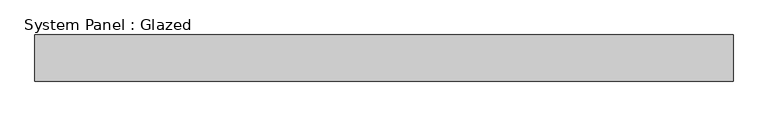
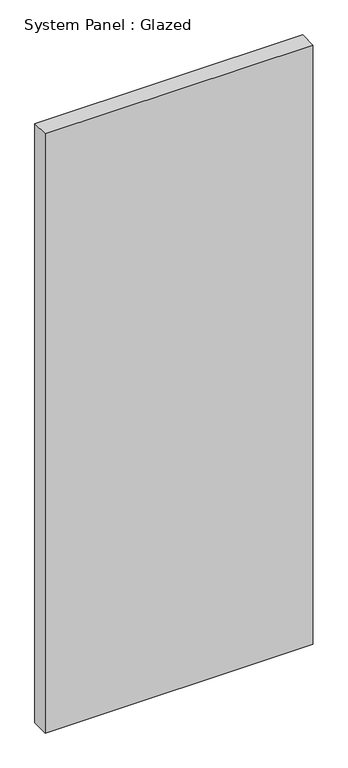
"""IFC4 building model written with IfcOpenShell, lengths in millimetres: plate geometry, System Panel : Glazed."""

import ifcopenshell
import ifcopenshell.guid

model = None  # the IFC model being written
_history = None  # IfcOwnerHistory: only IFC2X3 demands one
_inside = {}  # id of a spatial element -> (the spatial element, [elements in it])
_under = {}  # id of a project, library or spatial element -> (it, [spatial elements below it])
_declared = {}  # id of a project -> (the project, [libraries it declares])
_typed = {}  # id of a type object -> (the type object, [elements of that type])
_made_of = {}  # id of a material, layer set ... -> (it, [elements and type objects made of it])


def new_model(schema):
    """Start an empty IFC model of exactly this schema.

    Asked for "IFC4X3", IfcOpenShell would pick the latest addendum, in which some entities
    have other attributes; the version numbers below select the first issue.
    IFC2X3 requires an IfcOwnerHistory on every rooted entity: one is made here for all.
    """
    global model, _history
    if schema == "IFC4X3":
        model = ifcopenshell.file(schema_version=(4, 3, 0, 0))
    else:
        model = ifcopenshell.file(schema=schema)
    _inside.clear()
    _under.clear()
    _declared.clear()
    _typed.clear()
    _made_of.clear()
    _history = None
    if model.schema == "IFC2X3":
        org = make("IfcOrganization", Name="unknown")
        user = make(
            "IfcPersonAndOrganization",
            ThePerson=make("IfcPerson", FamilyName="unknown"),
            TheOrganization=org,
        )
        app = make(
            "IfcApplication",
            ApplicationDeveloper=org,
            Version="unknown",
            ApplicationFullName="unknown",
            ApplicationIdentifier="unknown",
        )
        _history = make(
            "IfcOwnerHistory",
            OwningUser=user,
            OwningApplication=app,
            ChangeAction="ADDED",
            CreationDate=0,
        )
    return model


def make(cls, **values):
    """One entity of the class cls with the attributes given. An attribute that is None is left unset."""
    return model.create_entity(
        cls, **{name: value for name, value in values.items() if value is not None}
    )


def rooted(cls, **values):
    """An entity with a GlobalId (a new one), such as an element, a storey or a relation."""
    return make(cls, GlobalId=ifcopenshell.guid.new(), OwnerHistory=_history, **values)


def si_unit(unit_type, name, prefix=None):
    """IfcSIUnit, for example si_unit("LENGTHUNIT", "METRE", prefix="MILLI")."""
    return make("IfcSIUnit", UnitType=unit_type, Prefix=prefix, Name=name)


def assignment(units):
    """IfcUnitAssignment: the units of a project."""
    return None if units is None else make("IfcUnitAssignment", Units=units)


def point(xyz):
    """IfcCartesianPoint."""
    return None if xyz is None else make("IfcCartesianPoint", Coordinates=xyz)


def direction(xyz):
    """IfcDirection."""
    return None if xyz is None else make("IfcDirection", DirectionRatios=xyz)


def frame(location, z_axis=None, x_axis=None):
    """IfcAxis2Placement3D, a coordinate frame: its origin and axes. An axis left out is left unset."""
    return make(
        "IfcAxis2Placement3D",
        Location=point(location),
        Axis=direction(z_axis),
        RefDirection=direction(x_axis),
    )


def origin():
    """The frame at (0, 0, 0) with its axes left unset."""
    return frame((0.0, 0.0, 0.0))


def origin_with_axes():
    """The frame at (0, 0, 0) with the z axis (0, 0, 1) and the x axis (1, 0, 0) written out."""
    return frame((0.0, 0.0, 0.0), z_axis=(0.0, 0.0, 1.0), x_axis=(1.0, 0.0, 0.0))


def place(relative_to, where):
    """IfcLocalPlacement: puts the frame where relative to a parent placement (None: the world)."""
    return make(
        "IfcLocalPlacement", PlacementRelTo=relative_to, RelativePlacement=where
    )


def context(
    kind, dimensions, precision=None, world=None, true_north=None, identifier=None
):
    """IfcGeometricRepresentationContext, for example the 3D "Model" context."""
    return make(
        "IfcGeometricRepresentationContext",
        ContextIdentifier=identifier,
        ContextType=kind,
        CoordinateSpaceDimension=dimensions,
        Precision=precision,
        WorldCoordinateSystem=world,
        TrueNorth=true_north,
    )


def project(units=None, contexts=None):
    """IfcProject with its units and contexts."""
    return rooted(
        "IfcProject",
        Name="project",
        RepresentationContexts=contexts,
        UnitsInContext=assignment(units),
    )


def spatial(cls, under=None, at=None, **own):
    """A site, building, storey or space (cls), placed at a placement, below another one or the project."""
    s = rooted(cls, ObjectPlacement=at, **own)
    if under is not None:
        _under.setdefault(under.id(), (under, []))[1].append(s)
    return s


def polyline(points):
    """IfcPolyline through the points."""
    return make("IfcPolyline", Points=[point(p) for p in points])


def outline(outer, holes=None, kind="AREA"):
    """IfcArbitraryClosedProfileDef: a profile drawn as a closed curve; with holes, ...WithVoids."""
    if holes is None:
        return make("IfcArbitraryClosedProfileDef", ProfileType=kind, OuterCurve=outer)
    return make(
        "IfcArbitraryProfileDefWithVoids",
        ProfileType=kind,
        OuterCurve=outer,
        InnerCurves=holes,
    )


def extrude(swept, where, along, depth):
    """IfcExtrudedAreaSolid: the profile swept, set in the frame where, extruded along a direction by depth."""
    return make(
        "IfcExtrudedAreaSolid",
        SweptArea=swept,
        Position=where,
        ExtrudedDirection=direction(along),
        Depth=depth,
    )


def shape(context_of_items, identifier, shape_type, items):
    """IfcShapeRepresentation: the items that make up one representation, for example the "Body"."""
    return make(
        "IfcShapeRepresentation",
        ContextOfItems=context_of_items,
        RepresentationIdentifier=identifier,
        RepresentationType=shape_type,
        Items=items,
    )


def source(mapping_origin, context_of_items, identifier, shape_type, items):
    """IfcRepresentationMap: a shape defined once, which mapped items show again and again."""
    return make(
        "IfcRepresentationMap",
        MappingOrigin=mapping_origin,
        MappedRepresentation=shape(context_of_items, identifier, shape_type, items),
    )


def transform(
    local_origin,
    x_axis=None,
    y_axis=None,
    z_axis=None,
    scale=None,
    scale2=None,
    scale3=None,
    uniform=True,
):
    """IfcCartesianTransformationOperator3D, or its non-uniform kind. x_axis, y_axis, z_axis: its Axis1, 2, 3."""
    if uniform:
        return make(
            "IfcCartesianTransformationOperator3D",
            Axis1=direction(x_axis),
            Axis2=direction(y_axis),
            LocalOrigin=point(local_origin),
            Scale=scale,
            Axis3=direction(z_axis),
        )
    return make(
        "IfcCartesianTransformationOperator3DnonUniform",
        Axis1=direction(x_axis),
        Axis2=direction(y_axis),
        LocalOrigin=point(local_origin),
        Scale=scale,
        Axis3=direction(z_axis),
        Scale2=scale2,
        Scale3=scale3,
    )


def mapped(mapping_source, mapping_target):
    """IfcMappedItem: shows the shape of a source again, moved by a transform."""
    return make(
        "IfcMappedItem", MappingSource=mapping_source, MappingTarget=mapping_target
    )


def made_of(thing, what):
    """Note that an element or type object is made of a material, layer set ...; save() writes the relation."""
    if what is not None:
        _made_of.setdefault(what.id(), (what, []))[1].append(thing)
    return thing


def element(
    cls,
    number,
    at=None,
    inside=None,
    cuts=None,
    type_object=None,
    material=None,
    context=None,
    identifier="Body",
    shape_type=None,
    held_by="IfcProductDefinitionShape",
    body=None,
    shapes=None,
    **own,
):
    """One element of the class cls, such as IfcWall. Its Tag is "e" and its number.

    at: its placement. inside: the storey or other place that contains it. cuts: it is an
    opening in that element (IfcRelVoidsElement). A single representation is given by context,
    identifier, shape_type and body (its items); several are given by shapes. held_by: the class
    of the entity that holds the representations. save() writes the other relations.
    """
    e = rooted(cls, Tag="e%d" % number, ObjectPlacement=at, **own)
    if body is not None:
        shapes = [shape(context, identifier, shape_type, body)]
    if shapes is not None:
        e.Representation = make(held_by, Representations=shapes)
    if inside is not None:
        _inside.setdefault(inside.id(), (inside, []))[1].append(e)
    if cuts is not None:
        rooted(
            "IfcRelVoidsElement", RelatingBuildingElement=cuts, RelatedOpeningElement=e
        )
    if type_object is not None:
        _typed.setdefault(type_object.id(), (type_object, []))[1].append(e)
    return made_of(e, material)


def aggregate(whole, parts):
    """IfcRelAggregates: a whole, such as a stair, and the parts it consists of."""
    return rooted("IfcRelAggregates", RelatingObject=whole, RelatedObjects=parts)


def save(model, path):
    """Write the relations noted so far, then the file.

    IfcRelAggregates (storeys below a building ...), IfcRelContainedInSpatialStructure (elements
    in a storey), IfcRelDefinesByType, IfcRelAssociatesMaterial and IfcRelDeclares: one each for
    every whole, place, type object, material and project.
    """
    for whole, parts in _under.values():
        aggregate(whole, parts)
    for where, things in _inside.values():
        rooted(
            "IfcRelContainedInSpatialStructure",
            RelatedElements=things,
            RelatingStructure=where,
        )
    for kind, things in _typed.values():
        rooted("IfcRelDefinesByType", RelatedObjects=things, RelatingType=kind)
    for what, things in _made_of.values():
        rooted("IfcRelAssociatesMaterial", RelatedObjects=things, RelatingMaterial=what)
    for by, libraries in _declared.values():
        rooted("IfcRelDeclares", RelatingContext=by, RelatedDefinitions=libraries)
    model.write(path)


def system_panel_glazed_41508dfd(model_context):
    return source(origin(), model_context, "Body", "SweptSolid", [
        extrude(outline(polyline([(750.0000001, 50.0), (-750.0000001, 50.0), (-750.0000001, 150.0), (750.0000001, 150.0), (750.0000001, 50.0)])), origin_with_axes(), (0.0, 0.0, 1.0), 3550.0),
    ])


if __name__ == "__main__":
    model = new_model("IFC4")
    model_context = context("Model", 3, world=origin())
    ifc_project = project(units=[si_unit("LENGTHUNIT", "METRE", prefix="MILLI")], contexts=[model_context])
    site = spatial("IfcSite", under=ifc_project)
    building = spatial("IfcBuilding", under=site)
    placement = place(None, origin())
    system_panel_glazed_shape = system_panel_glazed_41508dfd(model_context)
    element("IfcPlate", 1, ObjectType="System Panel : Glazed", at=placement, inside=building, context=model_context, shape_type="MappedRepresentation", body=[
        mapped(system_panel_glazed_shape, transform((0.0, 0.0, 0.0), x_axis=(1.0, 0.0, 0.0), y_axis=(0.0, 1.0, 0.0), z_axis=(0.0, 0.0, 1.0))),
    ])
    save(model, "model.ifc")
